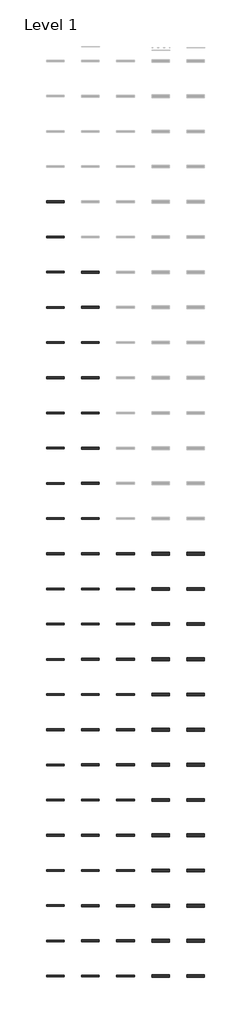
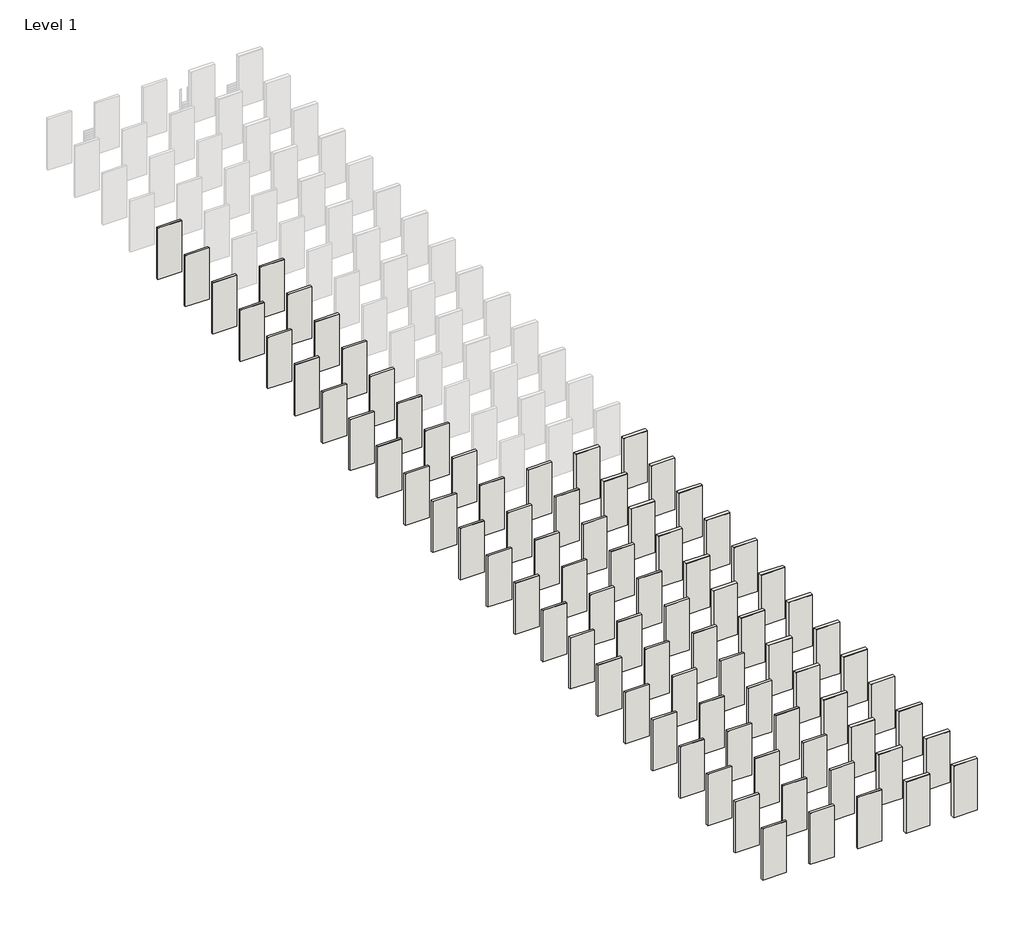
# One storey, part 1 of 2: 83 walls.
"""IFC4 building model written with IfcOpenShell, lengths in millimetres."""

from ifc_helpers import new_model, si_unit, frame, origin, place, context, project, spatial, polyline, outline, extrude, element, save

model = new_model("IFC4")

# Units and contexts
model_context = context("Model", 3, world=origin())
ifc_project = project(units=[si_unit("LENGTHUNIT", "METRE", prefix="MILLI")], contexts=[model_context])

# Site, building, storey
site = spatial("IfcSite", under=ifc_project)
building = spatial("IfcBuilding", under=site)
storey = spatial("IfcBuildingStorey", under=building, Name="Level 1", Elevation=0.0)

# Walls
placement = place(None, origin())
element("IfcWall", 1, ObjectType="Exterior - 2x4 Direct to Stud - LP SmartSide Lap Siding - 76 Series Cedar Texture Lap (Strand) - 5.84", at=placement, inside=storey, context=model_context, shape_type="SweptSolid", body=[
    extrude(outline(polyline([(22554.7791435, 0.0), (22554.7791435, 2771.775), (22564.3041435, 2771.775), (22665.9041435, 2771.775), (22665.9041435, 0.0), (22564.3041435, 0.0), (22554.7791435, 0.0)])), frame((-5100.4179718, 0.0, 0.0), z_axis=(1.0, 0.0, 0.0), x_axis=(0.0, 1.0, 0.0)), (0.0, 0.0, 1.0), 1219.2),
])
element("IfcWall", 2, ObjectType="Exterior - 2x4 Direct to Stud - LP SmartSide Lap Siding - 76 Series Cedar Texture Lap (Strand) - 7.84", at=placement, inside=storey, context=model_context, shape_type="SweptSolid", body=[
    extrude(outline(polyline([(20116.3791435, 0.0), (20116.3791435, 2771.775), (20125.9041435, 2771.775), (20227.5041435, 2771.775), (20227.5041435, 0.0), (20125.9041435, 0.0), (20116.3791435, 0.0)])), frame((-5100.4179718, 0.0, 0.0), z_axis=(1.0, 0.0, 0.0), x_axis=(0.0, 1.0, 0.0)), (0.0, 0.0, 1.0), 1219.2),
])
element("IfcWall", 3, ObjectType="Exterior - 2x4 Direct to Stud - LP SmartSide Lap Siding - 76 Series Cedar Texture Lap (Strand) - 11.84", at=placement, inside=storey, context=model_context, shape_type="SweptSolid", body=[
    extrude(outline(polyline([(17677.9791435, 0.0), (17677.9791435, 2771.775), (17687.5041435, 2771.775), (17789.1041435, 2771.775), (17789.1041435, 0.0), (17687.5041435, 0.0), (17677.9791435, 0.0)])), frame((-5100.4179718, 0.0, 0.0), z_axis=(1.0, 0.0, 0.0), x_axis=(0.0, 1.0, 0.0)), (0.0, 0.0, 1.0), 1219.2),
])
element("IfcWall", 4, ObjectType="Exterior - 2x4 Direct to Stud - LP SmartSide Lap Siding - 76 Series Cedar Texture Lap (Fiber) - 5.84", at=placement, inside=storey, context=model_context, shape_type="SweptSolid", body=[
    extrude(outline(polyline([(15239.5791435, 0.0), (15239.5791435, 2771.775), (15249.1041435, 2771.775), (15350.7041435, 2771.775), (15350.7041435, 0.0), (15249.1041435, 0.0), (15239.5791435, 0.0)])), frame((-5100.4179718, 0.0, 0.0), z_axis=(1.0, 0.0, 0.0), x_axis=(0.0, 1.0, 0.0)), (0.0, 0.0, 1.0), 1219.2),
])
element("IfcWall", 5, ObjectType="Exterior - 2x4 Direct to Stud - LP SmartSide Lap Siding - 76 Series Cedar Texture Lap (Fiber) - 7.84", at=placement, inside=storey, context=model_context, shape_type="SweptSolid", body=[
    extrude(outline(polyline([(12801.1791435, 0.0), (12801.1791435, 2771.775), (12810.7041435, 2771.775), (12912.3041435, 2771.775), (12912.3041435, 0.0), (12810.7041435, 0.0), (12801.1791435, 0.0)])), frame((-5100.4179718, 0.0, 0.0), z_axis=(1.0, 0.0, 0.0), x_axis=(0.0, 1.0, 0.0)), (0.0, 0.0, 1.0), 1219.2),
])
element("IfcWall", 6, ObjectType="Exterior - 2x4 Direct to Stud - LP SmartSide Lap Siding - 76 Series Cedar Texture Lap (Fiber) - 9.47", at=placement, inside=storey, context=model_context, shape_type="SweptSolid", body=[
    extrude(outline(polyline([(10362.7791435, 0.0), (10362.7791435, 2771.775), (10372.3041435, 2771.775), (10473.9041435, 2771.775), (10473.9041435, 0.0), (10372.3041435, 0.0), (10362.7791435, 0.0)])), frame((-5100.4179718, 0.0, 0.0), z_axis=(1.0, 0.0, 0.0), x_axis=(0.0, 1.0, 0.0)), (0.0, 0.0, 1.0), 1219.2),
])
element("IfcWall", 7, ObjectType="Exterior - 2x4 Direct to Stud - LP SmartSide Lap Siding - 76 Series Cedar Texture Lap (Fiber) - 11.84", at=placement, inside=storey, context=model_context, shape_type="SweptSolid", body=[
    extrude(outline(polyline([(7924.3791435, 0.0), (7924.3791435, 2771.775), (7933.9041435, 2771.775), (8035.5041435, 2771.775), (8035.5041435, 0.0), (7933.9041435, 0.0), (7924.3791435, 0.0)])), frame((-5100.4179718, 0.0, 0.0), z_axis=(1.0, 0.0, 0.0), x_axis=(0.0, 1.0, 0.0)), (0.0, 0.0, 1.0), 1219.2),
])
element("IfcWall", 8, ObjectType="Exterior - 2x4 Direct to Stud - LP SmartSide Lap Siding - 76 Series SmartLock Cedar Texture Lap (Strand) - 7.84", at=placement, inside=storey, context=model_context, shape_type="SweptSolid", body=[
    extrude(outline(polyline([(5485.9791435, 0.0), (5485.9791435, 2771.775), (5495.5041435, 2771.775), (5597.1041435, 2771.775), (5597.1041435, 0.0), (5495.5041435, 0.0), (5485.9791435, 0.0)])), frame((-5100.4179718, 0.0, 0.0), z_axis=(1.0, 0.0, 0.0), x_axis=(0.0, 1.0, 0.0)), (0.0, 0.0, 1.0), 1219.2),
])
element("IfcWall", 9, ObjectType="Exterior - 2x4 Direct to Stud - LP SmartSide Lap Siding - 120 Series Self-Aligning Cedar Texture Lap (Fiber) - 7.92", at=placement, inside=storey, context=model_context, shape_type="SweptSolid", body=[
    extrude(outline(polyline([(3046.6266435, 0.0), (3046.6266435, 2771.775), (3058.0566435, 2771.775), (3159.6566435, 2771.775), (3159.6566435, 0.0), (3058.0566435, 0.0), (3046.6266435, 0.0)])), frame((-5100.4179718, 0.0, 0.0), z_axis=(1.0, 0.0, 0.0), x_axis=(0.0, 1.0, 0.0)), (0.0, 0.0, 1.0), 1219.2),
])
element("IfcWall", 10, ObjectType="Exterior - 2x4 Direct to Stud - LP SmartSide Lap Siding - 38 Series Smooth Finish Lap (Strand) - 5.84", at=placement, inside=storey, context=model_context, shape_type="SweptSolid", body=[
    extrude(outline(polyline([(609.9411435, 0.0), (609.9411435, 2771.775), (617.9421435, 2771.775), (719.5421435, 2771.775), (719.5421435, 0.0), (617.9421435, 0.0), (609.9411435, 0.0)])), frame((-5100.4179718, 0.0, 0.0), z_axis=(1.0, 0.0, 0.0), x_axis=(0.0, 1.0, 0.0)), (0.0, 0.0, 1.0), 1219.2),
])
element("IfcWall", 11, ObjectType="Exterior - 2x4 Direct to Stud - LP SmartSide Lap Siding - 38 Series Smooth Finish Lap (Strand) - 7.84", at=placement, inside=storey, context=model_context, shape_type="SweptSolid", body=[
    extrude(outline(polyline([(-1828.4588565, 0.0), (-1828.4588565, 2771.775), (-1820.4578565, 2771.775), (-1718.8578565, 2771.775), (-1718.8578565, 0.0), (-1820.4578565, 0.0), (-1828.4588565, 0.0)])), frame((-5100.4179718, 0.0, 0.0), z_axis=(1.0, 0.0, 0.0), x_axis=(0.0, 1.0, 0.0)), (0.0, 0.0, 1.0), 1219.2),
])
element("IfcWall", 12, ObjectType="Exterior - 2x4 Direct to Stud - LP SmartSide Lap Siding - 38 Series Smooth Finish Lap (Strand) - 11.84", at=placement, inside=storey, context=model_context, shape_type="SweptSolid", body=[
    extrude(outline(polyline([(-4266.8588565, 0.0), (-4266.8588565, 2771.775), (-4258.8578565, 2771.775), (-4157.2578565, 2771.775), (-4157.2578565, 0.0), (-4258.8578565, 0.0), (-4266.8588565, 0.0)])), frame((-5100.4179718, 0.0, 0.0), z_axis=(1.0, 0.0, 0.0), x_axis=(0.0, 1.0, 0.0)), (0.0, 0.0, 1.0), 1219.2),
])
element("IfcWall", 13, ObjectType="Exterior - 2x4 Direct to Stud - LP SmartSide Lap Siding - Colonial Beaded Sequoia Texture Lap (Fiber) - 7.94", at=placement, inside=storey, context=model_context, shape_type="SweptSolid", body=[
    extrude(outline(polyline([(-6706.0208565, 0.0), (-6706.0208565, 2771.775), (-6696.4958565, 2771.775), (-6594.8958565, 2771.775), (-6594.8958565, 0.0), (-6696.4958565, 0.0), (-6706.0208565, 0.0)])), frame((-5100.4179718, 0.0, 0.0), z_axis=(1.0, 0.0, 0.0), x_axis=(0.0, 1.0, 0.0)), (0.0, 0.0, 1.0), 1219.2),
])
element("IfcWall", 14, ObjectType="Exterior - 2x4 Direct to Stud - LP SmartSide Lap Siding - Colonial Beaded Smooth Finish Lap (Fiber) - 7.94", at=placement, inside=storey, context=model_context, shape_type="SweptSolid", body=[
    extrude(outline(polyline([(-9144.4208565, 0.0), (-9144.4208565, 2771.775), (-9134.8958565, 2771.775), (-9033.2958565, 2771.775), (-9033.2958565, 0.0), (-9134.8958565, 0.0), (-9144.4208565, 0.0)])), frame((-5100.4179718, 0.0, 0.0), z_axis=(1.0, 0.0, 0.0), x_axis=(0.0, 1.0, 0.0)), (0.0, 0.0, 1.0), 1219.2),
])
element("IfcWall", 15, ObjectType="Exterior - 2x4 Direct to Stud - LP SmartSide Lap Siding - Colonial Beaded Smooth Finish Lap (Fiber) - 8.94", at=placement, inside=storey, context=model_context, shape_type="SweptSolid", body=[
    extrude(outline(polyline([(-11582.8208565, 0.0), (-11582.8208565, 2771.775), (-11573.2958565, 2771.775), (-11471.6958565, 2771.775), (-11471.6958565, 0.0), (-11573.2958565, 0.0), (-11582.8208565, 0.0)])), frame((-5100.4179718, 0.0, 0.0), z_axis=(1.0, 0.0, 0.0), x_axis=(0.0, 1.0, 0.0)), (0.0, 0.0, 1.0), 1219.2),
])
element("IfcWall", 16, ObjectType="Exterior - 2x4 Direct to Stud - LP SmartSide Lap Siding - Bold Profile Triple 4\" Cedar Texture Lap (Fiber) - 11.86", at=placement, inside=storey, context=model_context, shape_type="SweptSolid", body=[
    extrude(outline(polyline([(-14022.1733565, 0.0), (-14022.1733565, 2771.775), (-14010.7433565, 2771.775), (-13909.1433565, 2771.775), (-13909.1433565, 0.0), (-14010.7433565, 0.0), (-14022.1733565, 0.0)])), frame((-5100.4179718, 0.0, 0.0), z_axis=(1.0, 0.0, 0.0), x_axis=(0.0, 1.0, 0.0)), (0.0, 0.0, 1.0), 1219.2),
])
element("IfcWall", 17, ObjectType="Exterior - 2x4 Direct to Stud - LP SmartSide Lap Siding - 76 Series Smooth Finish Lap (Fiber) - 5.84", at=placement, inside=storey, context=model_context, shape_type="SweptSolid", body=[
    extrude(outline(polyline([(-26213.2208565, 0.0), (-26213.2208565, 2771.775), (-26203.6958565, 2771.775), (-26102.0958565, 2771.775), (-26102.0958565, 0.0), (-26203.6958565, 0.0), (-26213.2208565, 0.0)])), frame((-5100.4179718, 0.0, 0.0), z_axis=(1.0, 0.0, 0.0), x_axis=(0.0, 1.0, 0.0)), (0.0, 0.0, 1.0), 1219.2),
])
element("IfcWall", 18, ObjectType="Exterior - 2x4 Direct to Stud - LP SmartSide Lap Siding - 76 Series Smooth Finish Lap (Fiber) - 7.84", at=placement, inside=storey, context=model_context, shape_type="SweptSolid", body=[
    extrude(outline(polyline([(-28651.6208565, 0.0), (-28651.6208565, 2771.775), (-28642.0958565, 2771.775), (-28540.4958565, 2771.775), (-28540.4958565, 0.0), (-28642.0958565, 0.0), (-28651.6208565, 0.0)])), frame((-5100.4179718, 0.0, 0.0), z_axis=(1.0, 0.0, 0.0), x_axis=(0.0, 1.0, 0.0)), (0.0, 0.0, 1.0), 1219.2),
])
element("IfcWall", 19, ObjectType="Exterior - 2x4 Direct to Stud - LP SmartSide Lap Siding - 76 Series Smooth Finish Lap (Fiber) - 11.84", at=placement, inside=storey, context=model_context, shape_type="SweptSolid", body=[
    extrude(outline(polyline([(-31090.0208565, 0.0), (-31090.0208565, 2771.775), (-31080.4958565, 2771.775), (-30978.8958565, 2771.775), (-30978.8958565, 0.0), (-31080.4958565, 0.0), (-31090.0208565, 0.0)])), frame((-5100.4179718, 0.0, 0.0), z_axis=(1.0, 0.0, 0.0), x_axis=(0.0, 1.0, 0.0)), (0.0, 0.0, 1.0), 1219.2),
])
element("IfcWall", 20, ObjectType="Exterior - 2x4 Direct to Stud - LP SmartSide Lap Siding - Bold Profile Double 5\" Cedar Texture Lap (Fiber) - 11.86", at=placement, inside=storey, context=model_context, shape_type="SweptSolid", body=[
    extrude(outline(polyline([(-16460.5733565, 0.0), (-16460.5733565, 2771.775), (-16449.1433565, 2771.775), (-16347.5433565, 2771.775), (-16347.5433565, 0.0), (-16449.1433565, 0.0), (-16460.5733565, 0.0)])), frame((-5100.4179718, 0.0, 0.0), z_axis=(1.0, 0.0, 0.0), x_axis=(0.0, 1.0, 0.0)), (0.0, 0.0, 1.0), 1219.2),
])
element("IfcWall", 21, ObjectType="Exterior - 2x4 Direct to Stud - LP SmartSide Lap Siding - Bold Profile Quad 4\" Cedar Texture Lap (Fiber) - 15.94", at=placement, inside=storey, context=model_context, shape_type="SweptSolid", body=[
    extrude(outline(polyline([(-18898.9733565, 0.0), (-18898.9733565, 2771.775), (-18887.5433565, 2771.775), (-18785.9433565, 2771.775), (-18785.9433565, 0.0), (-18887.5433565, 0.0), (-18898.9733565, 0.0)])), frame((-5100.4179718, 0.0, 0.0), z_axis=(1.0, 0.0, 0.0), x_axis=(0.0, 1.0, 0.0)), (0.0, 0.0, 1.0), 1219.2),
])
element("IfcWall", 22, ObjectType="Exterior - 2x4 Direct to Stud - LP SmartSide Lap Siding - Bold Profile Triple 5\" Cedar Texture Lap (Fiber) - 15.94", at=placement, inside=storey, context=model_context, shape_type="SweptSolid", body=[
    extrude(outline(polyline([(-21337.3733565, 0.0), (-21337.3733565, 2771.775), (-21325.9433565, 2771.775), (-21224.3433565, 2771.775), (-21224.3433565, 0.0), (-21325.9433565, 0.0), (-21337.3733565, 0.0)])), frame((-5100.4179718, 0.0, 0.0), z_axis=(1.0, 0.0, 0.0), x_axis=(0.0, 1.0, 0.0)), (0.0, 0.0, 1.0), 1219.2),
])
element("IfcWall", 23, ObjectType="Exterior - 2x4 Direct to Stud - LP SmartSide Lap Siding - Bold Profile Double 8\" Cedar Texture Lap (Fiber) - 15.94", at=placement, inside=storey, context=model_context, shape_type="SweptSolid", body=[
    extrude(outline(polyline([(-23775.7733565, 0.0), (-23775.7733565, 2771.775), (-23764.3433565, 2771.775), (-23662.7433565, 2771.775), (-23662.7433565, 0.0), (-23764.3433565, 0.0), (-23775.7733565, 0.0)])), frame((-5100.4179718, 0.0, 0.0), z_axis=(1.0, 0.0, 0.0), x_axis=(0.0, 1.0, 0.0)), (0.0, 0.0, 1.0), 1219.2),
])
element("IfcWall", 24, ObjectType="Exterior - 2x4 w/WSP - LP SmartSide Lap Siding - 76 Series Cedar Texture Lap (Strand) - 11.84", at=placement, inside=storey, context=model_context, shape_type="SweptSolid", body=[
    extrude(outline(polyline([(17672.4228935, 0.0), (17672.4228935, 2771.775), (17681.9478935, 2771.775), (17794.6603935, 2771.775), (17794.6603935, 0.0), (17681.9478935, 0.0), (17672.4228935, 0.0)])), frame((-2662.0179718, 0.0, 0.0), z_axis=(1.0, 0.0, 0.0), x_axis=(0.0, 1.0, 0.0)), (0.0, 0.0, 1.0), 1219.2),
])
element("IfcWall", 25, ObjectType="Exterior - 2x4 w/WSP - LP SmartSide Lap Siding - 76 Series Cedar Texture Lap (Fiber) - 5.84", at=placement, inside=storey, context=model_context, shape_type="SweptSolid", body=[
    extrude(outline(polyline([(15234.0228935, 0.0), (15234.0228935, 2771.775), (15243.5478935, 2771.775), (15356.2603935, 2771.775), (15356.2603935, 0.0), (15243.5478935, 0.0), (15234.0228935, 0.0)])), frame((-2662.0179718, 0.0, 0.0), z_axis=(1.0, 0.0, 0.0), x_axis=(0.0, 1.0, 0.0)), (0.0, 0.0, 1.0), 1219.2),
])
element("IfcWall", 26, ObjectType="Exterior - 2x4 w/WSP - LP SmartSide Lap Siding - 76 Series Cedar Texture Lap (Fiber) - 7.84", at=placement, inside=storey, context=model_context, shape_type="SweptSolid", body=[
    extrude(outline(polyline([(12795.6228935, 0.0), (12795.6228935, 2771.775), (12805.1478935, 2771.775), (12917.8603935, 2771.775), (12917.8603935, 0.0), (12805.1478935, 0.0), (12795.6228935, 0.0)])), frame((-2662.0179718, 0.0, 0.0), z_axis=(1.0, 0.0, 0.0), x_axis=(0.0, 1.0, 0.0)), (0.0, 0.0, 1.0), 1219.2),
])
element("IfcWall", 27, ObjectType="Exterior - 2x4 w/WSP - LP SmartSide Lap Siding - 76 Series Cedar Texture Lap (Fiber) - 9.47", at=placement, inside=storey, context=model_context, shape_type="SweptSolid", body=[
    extrude(outline(polyline([(10357.2228935, 0.0), (10357.2228935, 2771.775), (10366.7478935, 2771.775), (10479.4603935, 2771.775), (10479.4603935, 0.0), (10366.7478935, 0.0), (10357.2228935, 0.0)])), frame((-2662.0179718, 0.0, 0.0), z_axis=(1.0, 0.0, 0.0), x_axis=(0.0, 1.0, 0.0)), (0.0, 0.0, 1.0), 1219.2),
])
element("IfcWall", 28, ObjectType="Exterior - 2x4 w/WSP - LP SmartSide Lap Siding - 76 Series Cedar Texture Lap (Fiber) - 11.84", at=placement, inside=storey, context=model_context, shape_type="SweptSolid", body=[
    extrude(outline(polyline([(7918.8228935, 0.0), (7918.8228935, 2771.775), (7928.3478935, 2771.775), (8041.0603935, 2771.775), (8041.0603935, 0.0), (7928.3478935, 0.0), (7918.8228935, 0.0)])), frame((-2662.0179718, 0.0, 0.0), z_axis=(1.0, 0.0, 0.0), x_axis=(0.0, 1.0, 0.0)), (0.0, 0.0, 1.0), 1219.2),
])
element("IfcWall", 29, ObjectType="Exterior - 2x4 w/WSP - LP SmartSide Lap Siding - 76 Series SmartLock Cedar Texture Lap (Strand) - 7.84", at=placement, inside=storey, context=model_context, shape_type="SweptSolid", body=[
    extrude(outline(polyline([(5480.4228935, 0.0), (5480.4228935, 2771.775), (5489.9478935, 2771.775), (5602.6603935, 2771.775), (5602.6603935, 0.0), (5489.9478935, 0.0), (5480.4228935, 0.0)])), frame((-2662.0179718, 0.0, 0.0), z_axis=(1.0, 0.0, 0.0), x_axis=(0.0, 1.0, 0.0)), (0.0, 0.0, 1.0), 1219.2),
])
element("IfcWall", 30, ObjectType="Exterior - 2x4 w/WSP - LP SmartSide Lap Siding - 120 Series Self-Aligning Cedar Texture Lap (Fiber) - 7.92", at=placement, inside=storey, context=model_context, shape_type="SweptSolid", body=[
    extrude(outline(polyline([(3041.0703935, 0.0), (3041.0703935, 2771.775), (3052.5003935, 2771.775), (3165.2128935, 2771.775), (3165.2128935, 0.0), (3052.5003935, 0.0), (3041.0703935, 0.0)])), frame((-2662.0179718, 0.0, 0.0), z_axis=(1.0, 0.0, 0.0), x_axis=(0.0, 1.0, 0.0)), (0.0, 0.0, 1.0), 1219.2),
])
element("IfcWall", 31, ObjectType="Exterior - 2x4 w/WSP - LP SmartSide Lap Siding - 38 Series Smooth Finish Lap (Strand) - 5.84", at=placement, inside=storey, context=model_context, shape_type="SweptSolid", body=[
    extrude(outline(polyline([(604.3848935, 0.0), (604.3848935, 2771.775), (612.3858935, 2771.775), (725.0983935, 2771.775), (725.0983935, 0.0), (612.3858935, 0.0), (604.3848935, 0.0)])), frame((-2662.0179718, 0.0, 0.0), z_axis=(1.0, 0.0, 0.0), x_axis=(0.0, 1.0, 0.0)), (0.0, 0.0, 1.0), 1219.2),
])
element("IfcWall", 32, ObjectType="Exterior - 2x4 w/WSP - LP SmartSide Lap Siding - 38 Series Smooth Finish Lap (Strand) - 7.84", at=placement, inside=storey, context=model_context, shape_type="SweptSolid", body=[
    extrude(outline(polyline([(-1834.0151065, 0.0), (-1834.0151065, 2771.775), (-1826.0141065, 2771.775), (-1713.3016065, 2771.775), (-1713.3016065, 0.0), (-1826.0141065, 0.0), (-1834.0151065, 0.0)])), frame((-2662.0179718, 0.0, 0.0), z_axis=(1.0, 0.0, 0.0), x_axis=(0.0, 1.0, 0.0)), (0.0, 0.0, 1.0), 1219.2),
])
element("IfcWall", 33, ObjectType="Exterior - 2x4 w/WSP - LP SmartSide Lap Siding - 38 Series Smooth Finish Lap (Strand) - 11.84", at=placement, inside=storey, context=model_context, shape_type="SweptSolid", body=[
    extrude(outline(polyline([(-4272.4151065, 0.0), (-4272.4151065, 2771.775), (-4264.4141065, 2771.775), (-4151.7016065, 2771.775), (-4151.7016065, 0.0), (-4264.4141065, 0.0), (-4272.4151065, 0.0)])), frame((-2662.0179718, 0.0, 0.0), z_axis=(1.0, 0.0, 0.0), x_axis=(0.0, 1.0, 0.0)), (0.0, 0.0, 1.0), 1219.2),
])
element("IfcWall", 34, ObjectType="Exterior - 2x4 w/WSP - LP SmartSide Lap Siding - Colonial Beaded Sequoia Texture Lap (Fiber) - 7.94", at=placement, inside=storey, context=model_context, shape_type="SweptSolid", body=[
    extrude(outline(polyline([(-6711.5771065, 0.0), (-6711.5771065, 2771.775), (-6702.0521065, 2771.775), (-6589.3396065, 2771.775), (-6589.3396065, 0.0), (-6702.0521065, 0.0), (-6711.5771065, 0.0)])), frame((-2662.0179718, 0.0, 0.0), z_axis=(1.0, 0.0, 0.0), x_axis=(0.0, 1.0, 0.0)), (0.0, 0.0, 1.0), 1219.2),
])
element("IfcWall", 35, ObjectType="Exterior - 2x4 w/WSP - LP SmartSide Lap Siding - Colonial Beaded Smooth Finish Lap (Fiber) - 7.94", at=placement, inside=storey, context=model_context, shape_type="SweptSolid", body=[
    extrude(outline(polyline([(-9149.9771065, 0.0), (-9149.9771065, 2771.775), (-9140.4521065, 2771.775), (-9027.7396065, 2771.775), (-9027.7396065, 0.0), (-9140.4521065, 0.0), (-9149.9771065, 0.0)])), frame((-2662.0179718, 0.0, 0.0), z_axis=(1.0, 0.0, 0.0), x_axis=(0.0, 1.0, 0.0)), (0.0, 0.0, 1.0), 1219.2),
])
element("IfcWall", 36, ObjectType="Exterior - 2x4 w/WSP - LP SmartSide Lap Siding - Colonial Beaded Smooth Finish Lap (Fiber) - 8.94", at=placement, inside=storey, context=model_context, shape_type="SweptSolid", body=[
    extrude(outline(polyline([(-11588.3771065, 0.0), (-11588.3771065, 2771.775), (-11578.8521065, 2771.775), (-11466.1396065, 2771.775), (-11466.1396065, 0.0), (-11578.8521065, 0.0), (-11588.3771065, 0.0)])), frame((-2662.0179718, 0.0, 0.0), z_axis=(1.0, 0.0, 0.0), x_axis=(0.0, 1.0, 0.0)), (0.0, 0.0, 1.0), 1219.2),
])
element("IfcWall", 37, ObjectType="Exterior - 2x4 w/WSP - LP SmartSide Lap Siding - Bold Profile Triple 4\" Cedar Texture Lap (Fiber) - 11.86", at=placement, inside=storey, context=model_context, shape_type="SweptSolid", body=[
    extrude(outline(polyline([(-14027.7296065, 0.0), (-14027.7296065, 2771.775), (-14016.2996065, 2771.775), (-13903.5871065, 2771.775), (-13903.5871065, 0.0), (-14016.2996065, 0.0), (-14027.7296065, 0.0)])), frame((-2662.0179718, 0.0, 0.0), z_axis=(1.0, 0.0, 0.0), x_axis=(0.0, 1.0, 0.0)), (0.0, 0.0, 1.0), 1219.2),
])
element("IfcWall", 38, ObjectType="Exterior - 2x4 w/WSP - LP SmartSide Lap Siding - 76 Series Smooth Finish Lap (Fiber) - 5.84", at=placement, inside=storey, context=model_context, shape_type="SweptSolid", body=[
    extrude(outline(polyline([(-26218.7771065, 0.0), (-26218.7771065, 2771.775), (-26209.2521065, 2771.775), (-26096.5396065, 2771.775), (-26096.5396065, 0.0), (-26209.2521065, 0.0), (-26218.7771065, 0.0)])), frame((-2662.0179718, 0.0, 0.0), z_axis=(1.0, 0.0, 0.0), x_axis=(0.0, 1.0, 0.0)), (0.0, 0.0, 1.0), 1219.2),
])
element("IfcWall", 39, ObjectType="Exterior - 2x4 w/WSP - LP SmartSide Lap Siding - 76 Series Smooth Finish Lap (Fiber) - 7.84", at=placement, inside=storey, context=model_context, shape_type="SweptSolid", body=[
    extrude(outline(polyline([(-28657.1771065, 0.0), (-28657.1771065, 2771.775), (-28647.6521065, 2771.775), (-28534.9396065, 2771.775), (-28534.9396065, 0.0), (-28647.6521065, 0.0), (-28657.1771065, 0.0)])), frame((-2662.0179718, 0.0, 0.0), z_axis=(1.0, 0.0, 0.0), x_axis=(0.0, 1.0, 0.0)), (0.0, 0.0, 1.0), 1219.2),
])
element("IfcWall", 40, ObjectType="Exterior - 2x4 w/WSP - LP SmartSide Lap Siding - 76 Series Smooth Finish Lap (Fiber) - 11.84", at=placement, inside=storey, context=model_context, shape_type="SweptSolid", body=[
    extrude(outline(polyline([(-31095.5771065, 0.0), (-31095.5771065, 2771.775), (-31086.0521065, 2771.775), (-30973.3396065, 2771.775), (-30973.3396065, 0.0), (-31086.0521065, 0.0), (-31095.5771065, 0.0)])), frame((-2662.0179718, 0.0, 0.0), z_axis=(1.0, 0.0, 0.0), x_axis=(0.0, 1.0, 0.0)), (0.0, 0.0, 1.0), 1219.2),
])
element("IfcWall", 41, ObjectType="Exterior - 2x4 w/WSP - LP SmartSide Lap Siding - Bold Profile Double 5\" Cedar Texture Lap (Fiber) - 11.86", at=placement, inside=storey, context=model_context, shape_type="SweptSolid", body=[
    extrude(outline(polyline([(-16466.1296065, 0.0), (-16466.1296065, 2771.775), (-16454.6996065, 2771.775), (-16341.9871065, 2771.775), (-16341.9871065, 0.0), (-16454.6996065, 0.0), (-16466.1296065, 0.0)])), frame((-2662.0179718, 0.0, 0.0), z_axis=(1.0, 0.0, 0.0), x_axis=(0.0, 1.0, 0.0)), (0.0, 0.0, 1.0), 1219.2),
])
element("IfcWall", 42, ObjectType="Exterior - 2x4 w/WSP - LP SmartSide Lap Siding - Bold Profile Quad 4\" Cedar Texture Lap (Fiber) - 15.94", at=placement, inside=storey, context=model_context, shape_type="SweptSolid", body=[
    extrude(outline(polyline([(-18904.5296065, 0.0), (-18904.5296065, 2771.775), (-18893.0996065, 2771.775), (-18780.3871065, 2771.775), (-18780.3871065, 0.0), (-18893.0996065, 0.0), (-18904.5296065, 0.0)])), frame((-2662.0179718, 0.0, 0.0), z_axis=(1.0, 0.0, 0.0), x_axis=(0.0, 1.0, 0.0)), (0.0, 0.0, 1.0), 1219.2),
])
element("IfcWall", 43, ObjectType="Exterior - 2x4 w/WSP - LP SmartSide Lap Siding - Bold Profile Triple 5\" Cedar Texture Lap (Fiber) - 15.94", at=placement, inside=storey, context=model_context, shape_type="SweptSolid", body=[
    extrude(outline(polyline([(-21342.9296065, 0.0), (-21342.9296065, 2771.775), (-21331.4996065, 2771.775), (-21218.7871065, 2771.775), (-21218.7871065, 0.0), (-21331.4996065, 0.0), (-21342.9296065, 0.0)])), frame((-2662.0179718, 0.0, 0.0), z_axis=(1.0, 0.0, 0.0), x_axis=(0.0, 1.0, 0.0)), (0.0, 0.0, 1.0), 1219.2),
])
element("IfcWall", 44, ObjectType="Exterior - 2x4 w/WSP - LP SmartSide Lap Siding - Bold Profile Double 8\" Cedar Texture Lap (Fiber) - 15.94", at=placement, inside=storey, context=model_context, shape_type="SweptSolid", body=[
    extrude(outline(polyline([(-23781.3296065, 0.0), (-23781.3296065, 2771.775), (-23769.8996065, 2771.775), (-23657.1871065, 2771.775), (-23657.1871065, 0.0), (-23769.8996065, 0.0), (-23781.3296065, 0.0)])), frame((-2662.0179718, 0.0, 0.0), z_axis=(1.0, 0.0, 0.0), x_axis=(0.0, 1.0, 0.0)), (0.0, 0.0, 1.0), 1219.2),
])
element("IfcWall", 45, ObjectType="Exterior - 2x4 w/Exterior Insulation - LP SmartSide Lap Siding - 38 Series Smooth Finish Lap (Strand) - 7.84", at=placement, inside=storey, context=model_context, shape_type="SweptSolid", body=[
    extrude(outline(polyline([(-1868.9401065, 0.0), (-1868.9401065, 2771.775), (-1860.9391065, 2771.775), (-1841.8891065, 2771.775), (-1678.3766065, 2771.775), (-1678.3766065, 0.0), (-1841.8891065, 0.0), (-1860.9391065, 0.0), (-1868.9401065, 0.0)])), frame((2214.7820282, 0.0, 0.0), z_axis=(1.0, 0.0, 0.0), x_axis=(0.0, 1.0, 0.0)), (0.0, 0.0, 1.0), 1219.2),
])
element("IfcWall", 46, ObjectType="Exterior - 2x4 w/Exterior Insulation - LP SmartSide Lap Siding - 38 Series Smooth Finish Lap (Strand) - 11.84", at=placement, inside=storey, context=model_context, shape_type="SweptSolid", body=[
    extrude(outline(polyline([(-4307.3401065, 0.0), (-4307.3401065, 2771.775), (-4299.3391065, 2771.775), (-4280.2891065, 2771.775), (-4116.7766065, 2771.775), (-4116.7766065, 0.0), (-4280.2891065, 0.0), (-4299.3391065, 0.0), (-4307.3401065, 0.0)])), frame((2214.7820282, 0.0, 0.0), z_axis=(1.0, 0.0, 0.0), x_axis=(0.0, 1.0, 0.0)), (0.0, 0.0, 1.0), 1219.2),
])
element("IfcWall", 47, ObjectType="Exterior - 2x4 w/Exterior Insulation - LP SmartSide Lap Siding - Colonial Beaded Sequoia Texture Lap (Fiber) - 7.94", at=placement, inside=storey, context=model_context, shape_type="SweptSolid", body=[
    extrude(outline(polyline([(-6746.5021065, 0.0), (-6746.5021065, 2771.775), (-6736.9771065, 2771.775), (-6717.9271065, 2771.775), (-6554.4146065, 2771.775), (-6554.4146065, 0.0), (-6717.9271065, 0.0), (-6736.9771065, 0.0), (-6746.5021065, 0.0)])), frame((2214.7820282, 0.0, 0.0), z_axis=(1.0, 0.0, 0.0), x_axis=(0.0, 1.0, 0.0)), (0.0, 0.0, 1.0), 1219.2),
])
element("IfcWall", 48, ObjectType="Exterior - 2x4 w/Exterior Insulation - LP SmartSide Lap Siding - Colonial Beaded Smooth Finish Lap (Fiber) - 7.94", at=placement, inside=storey, context=model_context, shape_type="SweptSolid", body=[
    extrude(outline(polyline([(-9184.9021065, 0.0), (-9184.9021065, 2771.775), (-9175.3771065, 2771.775), (-9156.3271065, 2771.775), (-8992.8146065, 2771.775), (-8992.8146065, 0.0), (-9156.3271065, 0.0), (-9175.3771065, 0.0), (-9184.9021065, 0.0)])), frame((2214.7820282, 0.0, 0.0), z_axis=(1.0, 0.0, 0.0), x_axis=(0.0, 1.0, 0.0)), (0.0, 0.0, 1.0), 1219.2),
])
element("IfcWall", 49, ObjectType="Exterior - 2x4 w/Exterior Insulation - LP SmartSide Lap Siding - Colonial Beaded Smooth Finish Lap (Fiber) - 8.94", at=placement, inside=storey, context=model_context, shape_type="SweptSolid", body=[
    extrude(outline(polyline([(-11623.3021065, 0.0), (-11623.3021065, 2771.775), (-11613.7771065, 2771.775), (-11594.7271065, 2771.775), (-11431.2146065, 2771.775), (-11431.2146065, 0.0), (-11594.7271065, 0.0), (-11613.7771065, 0.0), (-11623.3021065, 0.0)])), frame((2214.7820282, 0.0, 0.0), z_axis=(1.0, 0.0, 0.0), x_axis=(0.0, 1.0, 0.0)), (0.0, 0.0, 1.0), 1219.2),
])
element("IfcWall", 50, ObjectType="Exterior - 2x4 w/Exterior Insulation - LP SmartSide Lap Siding - Bold Profile Triple 4\" Cedar Texture Lap (Fiber) - 11.86", at=placement, inside=storey, context=model_context, shape_type="SweptSolid", body=[
    extrude(outline(polyline([(-14062.6546065, 0.0), (-14062.6546065, 2771.775), (-14051.2246065, 2771.775), (-14032.1746065, 2771.775), (-13868.6621065, 2771.775), (-13868.6621065, 0.0), (-14032.1746065, 0.0), (-14051.2246065, 0.0), (-14062.6546065, 0.0)])), frame((2214.7820282, 0.0, 0.0), z_axis=(1.0, 0.0, 0.0), x_axis=(0.0, 1.0, 0.0)), (0.0, 0.0, 1.0), 1219.2),
])
element("IfcWall", 51, ObjectType="Exterior - 2x4 w/Exterior Insulation - LP SmartSide Lap Siding - 76 Series Smooth Finish Lap (Fiber) - 5.84", at=placement, inside=storey, context=model_context, shape_type="SweptSolid", body=[
    extrude(outline(polyline([(-26253.7021065, 0.0), (-26253.7021065, 2771.775), (-26244.1771065, 2771.775), (-26225.1271065, 2771.775), (-26061.6146065, 2771.775), (-26061.6146065, 0.0), (-26225.1271065, 0.0), (-26244.1771065, 0.0), (-26253.7021065, 0.0)])), frame((2214.7820282, 0.0, 0.0), z_axis=(1.0, 0.0, 0.0), x_axis=(0.0, 1.0, 0.0)), (0.0, 0.0, 1.0), 1219.2),
])
element("IfcWall", 52, ObjectType="Exterior - 2x4 w/Exterior Insulation - LP SmartSide Lap Siding - 76 Series Smooth Finish Lap (Fiber) - 7.84", at=placement, inside=storey, context=model_context, shape_type="SweptSolid", body=[
    extrude(outline(polyline([(-28692.1021065, 0.0), (-28692.1021065, 2771.775), (-28682.5771065, 2771.775), (-28663.5271065, 2771.775), (-28500.0146065, 2771.775), (-28500.0146065, 0.0), (-28663.5271065, 0.0), (-28682.5771065, 0.0), (-28692.1021065, 0.0)])), frame((2214.7820282, 0.0, 0.0), z_axis=(1.0, 0.0, 0.0), x_axis=(0.0, 1.0, 0.0)), (0.0, 0.0, 1.0), 1219.2),
])
element("IfcWall", 53, ObjectType="Exterior - 2x4 w/Exterior Insulation - LP SmartSide Lap Siding - 76 Series Smooth Finish Lap (Fiber) - 11.84", at=placement, inside=storey, context=model_context, shape_type="SweptSolid", body=[
    extrude(outline(polyline([(-31130.5021065, 0.0), (-31130.5021065, 2771.775), (-31120.9771065, 2771.775), (-31101.9271065, 2771.775), (-30938.4146065, 2771.775), (-30938.4146065, 0.0), (-31101.9271065, 0.0), (-31120.9771065, 0.0), (-31130.5021065, 0.0)])), frame((2214.7820282, 0.0, 0.0), z_axis=(1.0, 0.0, 0.0), x_axis=(0.0, 1.0, 0.0)), (0.0, 0.0, 1.0), 1219.2),
])
element("IfcWall", 54, ObjectType="Exterior - 2x4 w/Exterior Insulation - LP SmartSide Lap Siding - Bold Profile Double 5\" Cedar Texture Lap (Fiber) - 11.86", at=placement, inside=storey, context=model_context, shape_type="SweptSolid", body=[
    extrude(outline(polyline([(-16501.0546065, 0.0), (-16501.0546065, 2771.775), (-16489.6246065, 2771.775), (-16470.5746065, 2771.775), (-16307.0621065, 2771.775), (-16307.0621065, 0.0), (-16470.5746065, 0.0), (-16489.6246065, 0.0), (-16501.0546065, 0.0)])), frame((2214.7820282, 0.0, 0.0), z_axis=(1.0, 0.0, 0.0), x_axis=(0.0, 1.0, 0.0)), (0.0, 0.0, 1.0), 1219.2),
])
element("IfcWall", 55, ObjectType="Exterior - 2x4 w/Exterior Insulation - LP SmartSide Lap Siding - Bold Profile Quad 4\" Cedar Texture Lap (Fiber) - 15.94", at=placement, inside=storey, context=model_context, shape_type="SweptSolid", body=[
    extrude(outline(polyline([(-18939.4546065, 0.0), (-18939.4546065, 2771.775), (-18928.0246065, 2771.775), (-18908.9746065, 2771.775), (-18745.4621065, 2771.775), (-18745.4621065, 0.0), (-18908.9746065, 0.0), (-18928.0246065, 0.0), (-18939.4546065, 0.0)])), frame((2214.7820282, 0.0, 0.0), z_axis=(1.0, 0.0, 0.0), x_axis=(0.0, 1.0, 0.0)), (0.0, 0.0, 1.0), 1219.2),
])
element("IfcWall", 56, ObjectType="Exterior - 2x4 w/Exterior Insulation - LP SmartSide Lap Siding - Bold Profile Triple 5\" Cedar Texture Lap (Fiber) - 15.94", at=placement, inside=storey, context=model_context, shape_type="SweptSolid", body=[
    extrude(outline(polyline([(-21377.8546065, 0.0), (-21377.8546065, 2771.775), (-21366.4246065, 2771.775), (-21347.3746065, 2771.775), (-21183.8621065, 2771.775), (-21183.8621065, 0.0), (-21347.3746065, 0.0), (-21366.4246065, 0.0), (-21377.8546065, 0.0)])), frame((2214.7820282, 0.0, 0.0), z_axis=(1.0, 0.0, 0.0), x_axis=(0.0, 1.0, 0.0)), (0.0, 0.0, 1.0), 1219.2),
])
element("IfcWall", 57, ObjectType="Exterior - 2x4 w/Exterior Insulation - LP SmartSide Lap Siding - Bold Profile Double 8\" Cedar Texture Lap (Fiber) - 15.94", at=placement, inside=storey, context=model_context, shape_type="SweptSolid", body=[
    extrude(outline(polyline([(-23816.2546065, 0.0), (-23816.2546065, 2771.775), (-23804.8246065, 2771.775), (-23785.7746065, 2771.775), (-23622.2621065, 2771.775), (-23622.2621065, 0.0), (-23785.7746065, 0.0), (-23804.8246065, 0.0), (-23816.2546065, 0.0)])), frame((2214.7820282, 0.0, 0.0), z_axis=(1.0, 0.0, 0.0), x_axis=(0.0, 1.0, 0.0)), (0.0, 0.0, 1.0), 1219.2),
])
element("IfcWall", 58, ObjectType="Exterior - 2x4 w/Exterior Insulation & WeatherLogic® - LP SmartSide Lap Siding - 38 Series Smooth Finish Lap (Strand) - 7.84", at=placement, inside=storey, context=model_context, shape_type="SweptSolid", body=[
    extrude(outline(polyline([(-1868.9401065, 0.0), (-1868.9401065, 2771.775), (-1860.9391065, 2771.775), (-1841.8891065, 2771.775), (-1678.3766065, 2771.775), (-1678.3766065, 0.0), (-1841.8891065, 0.0), (-1860.9391065, 0.0), (-1868.9401065, 0.0)])), frame((4653.1820282, 0.0, 0.0), z_axis=(1.0, 0.0, 0.0), x_axis=(0.0, 1.0, 0.0)), (0.0, 0.0, 1.0), 1219.2),
])
element("IfcWall", 59, ObjectType="Exterior - 2x4 w/Exterior Insulation & WeatherLogic® - LP SmartSide Lap Siding - 38 Series Smooth Finish Lap (Strand) - 11.84", at=placement, inside=storey, context=model_context, shape_type="SweptSolid", body=[
    extrude(outline(polyline([(-4307.3401065, 0.0), (-4307.3401065, 2771.775), (-4299.3391065, 2771.775), (-4280.2891065, 2771.775), (-4116.7766065, 2771.775), (-4116.7766065, 0.0), (-4280.2891065, 0.0), (-4299.3391065, 0.0), (-4307.3401065, 0.0)])), frame((4653.1820282, 0.0, 0.0), z_axis=(1.0, 0.0, 0.0), x_axis=(0.0, 1.0, 0.0)), (0.0, 0.0, 1.0), 1219.2),
])
element("IfcWall", 60, ObjectType="Exterior - 2x4 w/Exterior Insulation & WeatherLogic® - LP SmartSide Lap Siding - Colonial Beaded Sequoia Texture Lap (Fiber) - 7.94", at=placement, inside=storey, context=model_context, shape_type="SweptSolid", body=[
    extrude(outline(polyline([(-6746.5021065, 0.0), (-6746.5021065, 2771.775), (-6736.9771065, 2771.775), (-6717.9271065, 2771.775), (-6554.4146065, 2771.775), (-6554.4146065, 0.0), (-6717.9271065, 0.0), (-6736.9771065, 0.0), (-6746.5021065, 0.0)])), frame((4653.1820282, 0.0, 0.0), z_axis=(1.0, 0.0, 0.0), x_axis=(0.0, 1.0, 0.0)), (0.0, 0.0, 1.0), 1219.2),
])
element("IfcWall", 61, ObjectType="Exterior - 2x4 w/Exterior Insulation & WeatherLogic® - LP SmartSide Lap Siding - Colonial Beaded Smooth Finish Lap (Fiber) - 7.94", at=placement, inside=storey, context=model_context, shape_type="SweptSolid", body=[
    extrude(outline(polyline([(-9184.9021065, 0.0), (-9184.9021065, 2771.775), (-9175.3771065, 2771.775), (-9156.3271065, 2771.775), (-8992.8146065, 2771.775), (-8992.8146065, 0.0), (-9156.3271065, 0.0), (-9175.3771065, 0.0), (-9184.9021065, 0.0)])), frame((4653.1820282, 0.0, 0.0), z_axis=(1.0, 0.0, 0.0), x_axis=(0.0, 1.0, 0.0)), (0.0, 0.0, 1.0), 1219.2),
])
element("IfcWall", 62, ObjectType="Exterior - 2x4 w/Exterior Insulation & WeatherLogic® - LP SmartSide Lap Siding - Colonial Beaded Smooth Finish Lap (Fiber) - 8.94", at=placement, inside=storey, context=model_context, shape_type="SweptSolid", body=[
    extrude(outline(polyline([(-11623.3021065, 0.0), (-11623.3021065, 2771.775), (-11613.7771065, 2771.775), (-11594.7271065, 2771.775), (-11431.2146065, 2771.775), (-11431.2146065, 0.0), (-11594.7271065, 0.0), (-11613.7771065, 0.0), (-11623.3021065, 0.0)])), frame((4653.1820282, 0.0, 0.0), z_axis=(1.0, 0.0, 0.0), x_axis=(0.0, 1.0, 0.0)), (0.0, 0.0, 1.0), 1219.2),
])
element("IfcWall", 63, ObjectType="Exterior - 2x4 w/Exterior Insulation & WeatherLogic® - LP SmartSide Lap Siding - Bold Profile Triple 4\" Cedar Texture Lap (Fiber) - 11.86", at=placement, inside=storey, context=model_context, shape_type="SweptSolid", body=[
    extrude(outline(polyline([(-14062.6546065, 0.0), (-14062.6546065, 2771.775), (-14051.2246065, 2771.775), (-14032.1746065, 2771.775), (-13868.6621065, 2771.775), (-13868.6621065, 0.0), (-14032.1746065, 0.0), (-14051.2246065, 0.0), (-14062.6546065, 0.0)])), frame((4653.1820282, 0.0, 0.0), z_axis=(1.0, 0.0, 0.0), x_axis=(0.0, 1.0, 0.0)), (0.0, 0.0, 1.0), 1219.2),
])
element("IfcWall", 64, ObjectType="Exterior - 2x4 w/Exterior Insulation & WeatherLogic® - LP SmartSide Lap Siding - 76 Series Smooth Finish Lap (Fiber) - 5.84", at=placement, inside=storey, context=model_context, shape_type="SweptSolid", body=[
    extrude(outline(polyline([(-26253.7021065, 0.0), (-26253.7021065, 2771.775), (-26244.1771065, 2771.775), (-26225.1271065, 2771.775), (-26061.6146065, 2771.775), (-26061.6146065, 0.0), (-26225.1271065, 0.0), (-26244.1771065, 0.0), (-26253.7021065, 0.0)])), frame((4653.1820282, 0.0, 0.0), z_axis=(1.0, 0.0, 0.0), x_axis=(0.0, 1.0, 0.0)), (0.0, 0.0, 1.0), 1219.2),
])
element("IfcWall", 65, ObjectType="Exterior - 2x4 w/Exterior Insulation & WeatherLogic® - LP SmartSide Lap Siding - 76 Series Smooth Finish Lap (Fiber) - 7.84", at=placement, inside=storey, context=model_context, shape_type="SweptSolid", body=[
    extrude(outline(polyline([(-28692.1021065, 0.0), (-28692.1021065, 2771.775), (-28682.5771065, 2771.775), (-28663.5271065, 2771.775), (-28500.0146065, 2771.775), (-28500.0146065, 0.0), (-28663.5271065, 0.0), (-28682.5771065, 0.0), (-28692.1021065, 0.0)])), frame((4653.1820282, 0.0, 0.0), z_axis=(1.0, 0.0, 0.0), x_axis=(0.0, 1.0, 0.0)), (0.0, 0.0, 1.0), 1219.2),
])
element("IfcWall", 66, ObjectType="Exterior - 2x4 w/Exterior Insulation & WeatherLogic® - LP SmartSide Lap Siding - 76 Series Smooth Finish Lap (Fiber) - 11.84", at=placement, inside=storey, context=model_context, shape_type="SweptSolid", body=[
    extrude(outline(polyline([(-31130.5021065, 0.0), (-31130.5021065, 2771.775), (-31120.9771065, 2771.775), (-31101.9271065, 2771.775), (-30938.4146065, 2771.775), (-30938.4146065, 0.0), (-31101.9271065, 0.0), (-31120.9771065, 0.0), (-31130.5021065, 0.0)])), frame((4653.1820282, 0.0, 0.0), z_axis=(1.0, 0.0, 0.0), x_axis=(0.0, 1.0, 0.0)), (0.0, 0.0, 1.0), 1219.2),
])
element("IfcWall", 67, ObjectType="Exterior - 2x4 w/Exterior Insulation & WeatherLogic® - LP SmartSide Lap Siding - Bold Profile Double 5\" Cedar Texture Lap (Fiber) - 11.86", at=placement, inside=storey, context=model_context, shape_type="SweptSolid", body=[
    extrude(outline(polyline([(-16501.0546065, 0.0), (-16501.0546065, 2771.775), (-16489.6246065, 2771.775), (-16470.5746065, 2771.775), (-16307.0621065, 2771.775), (-16307.0621065, 0.0), (-16470.5746065, 0.0), (-16489.6246065, 0.0), (-16501.0546065, 0.0)])), frame((4653.1820282, 0.0, 0.0), z_axis=(1.0, 0.0, 0.0), x_axis=(0.0, 1.0, 0.0)), (0.0, 0.0, 1.0), 1219.2),
])
element("IfcWall", 68, ObjectType="Exterior - 2x4 w/Exterior Insulation & WeatherLogic® - LP SmartSide Lap Siding - Bold Profile Quad 4\" Cedar Texture Lap (Fiber) - 15.94", at=placement, inside=storey, context=model_context, shape_type="SweptSolid", body=[
    extrude(outline(polyline([(-18939.4546065, 0.0), (-18939.4546065, 2771.775), (-18928.0246065, 2771.775), (-18908.9746065, 2771.775), (-18745.4621065, 2771.775), (-18745.4621065, 0.0), (-18908.9746065, 0.0), (-18928.0246065, 0.0), (-18939.4546065, 0.0)])), frame((4653.1820282, 0.0, 0.0), z_axis=(1.0, 0.0, 0.0), x_axis=(0.0, 1.0, 0.0)), (0.0, 0.0, 1.0), 1219.2),
])
element("IfcWall", 69, ObjectType="Exterior - 2x4 w/Exterior Insulation & WeatherLogic® - LP SmartSide Lap Siding - Bold Profile Triple 5\" Cedar Texture Lap (Fiber) - 15.94", at=placement, inside=storey, context=model_context, shape_type="SweptSolid", body=[
    extrude(outline(polyline([(-21377.8546065, 0.0), (-21377.8546065, 2771.775), (-21366.4246065, 2771.775), (-21347.3746065, 2771.775), (-21183.8621065, 2771.775), (-21183.8621065, 0.0), (-21347.3746065, 0.0), (-21366.4246065, 0.0), (-21377.8546065, 0.0)])), frame((4653.1820282, 0.0, 0.0), z_axis=(1.0, 0.0, 0.0), x_axis=(0.0, 1.0, 0.0)), (0.0, 0.0, 1.0), 1219.2),
])
element("IfcWall", 70, ObjectType="Exterior - 2x4 w/Exterior Insulation & WeatherLogic® - LP SmartSide Lap Siding - Bold Profile Double 8\" Cedar Texture Lap (Fiber) - 15.94", at=placement, inside=storey, context=model_context, shape_type="SweptSolid", body=[
    extrude(outline(polyline([(-23816.2546065, 0.0), (-23816.2546065, 2771.775), (-23804.8246065, 2771.775), (-23785.7746065, 2771.775), (-23622.2621065, 2771.775), (-23622.2621065, 0.0), (-23785.7746065, 0.0), (-23804.8246065, 0.0), (-23816.2546065, 0.0)])), frame((4653.1820282, 0.0, 0.0), z_axis=(1.0, 0.0, 0.0), x_axis=(0.0, 1.0, 0.0)), (0.0, 0.0, 1.0), 1219.2),
])
element("IfcWall", 71, ObjectType="Exterior - 2x4 w/WeatherLogic® - LP SmartSide Lap Siding - 38 Series Smooth Finish Lap (Strand) - 7.84", at=placement, inside=storey, context=model_context, shape_type="SweptSolid", body=[
    extrude(outline(polyline([(-1834.0151065, 0.0), (-1834.0151065, 2771.775), (-1826.0141065, 2771.775), (-1713.3016065, 2771.775), (-1713.3016065, 0.0), (-1826.0141065, 0.0), (-1834.0151065, 0.0)])), frame((-223.6179718, 0.0, 0.0), z_axis=(1.0, 0.0, 0.0), x_axis=(0.0, 1.0, 0.0)), (0.0, 0.0, 1.0), 1219.2),
])
element("IfcWall", 72, ObjectType="Exterior - 2x4 w/WeatherLogic® - LP SmartSide Lap Siding - 38 Series Smooth Finish Lap (Strand) - 11.84", at=placement, inside=storey, context=model_context, shape_type="SweptSolid", body=[
    extrude(outline(polyline([(-4272.4151065, 0.0), (-4272.4151065, 2771.775), (-4264.4141065, 2771.775), (-4151.7016065, 2771.775), (-4151.7016065, 0.0), (-4264.4141065, 0.0), (-4272.4151065, 0.0)])), frame((-223.6179718, 0.0, 0.0), z_axis=(1.0, 0.0, 0.0), x_axis=(0.0, 1.0, 0.0)), (0.0, 0.0, 1.0), 1219.2),
])
element("IfcWall", 73, ObjectType="Exterior - 2x4 w/WeatherLogic® - LP SmartSide Lap Siding - Colonial Beaded Sequoia Texture Lap (Fiber) - 7.94", at=placement, inside=storey, context=model_context, shape_type="SweptSolid", body=[
    extrude(outline(polyline([(-6711.5771065, 0.0), (-6711.5771065, 2771.775), (-6702.0521065, 2771.775), (-6589.3396065, 2771.775), (-6589.3396065, 0.0), (-6702.0521065, 0.0), (-6711.5771065, 0.0)])), frame((-223.6179718, 0.0, 0.0), z_axis=(1.0, 0.0, 0.0), x_axis=(0.0, 1.0, 0.0)), (0.0, 0.0, 1.0), 1219.2),
])
element("IfcWall", 74, ObjectType="Exterior - 2x4 w/WeatherLogic® - LP SmartSide Lap Siding - Colonial Beaded Smooth Finish Lap (Fiber) - 7.94", at=placement, inside=storey, context=model_context, shape_type="SweptSolid", body=[
    extrude(outline(polyline([(-9149.9771065, 0.0), (-9149.9771065, 2771.775), (-9140.4521065, 2771.775), (-9027.7396065, 2771.775), (-9027.7396065, 0.0), (-9140.4521065, 0.0), (-9149.9771065, 0.0)])), frame((-223.6179718, 0.0, 0.0), z_axis=(1.0, 0.0, 0.0), x_axis=(0.0, 1.0, 0.0)), (0.0, 0.0, 1.0), 1219.2),
])
element("IfcWall", 75, ObjectType="Exterior - 2x4 w/WeatherLogic® - LP SmartSide Lap Siding - Colonial Beaded Smooth Finish Lap (Fiber) - 8.94 2", at=placement, inside=storey, context=model_context, shape_type="SweptSolid", body=[
    extrude(outline(polyline([(-11588.3771065, 0.0), (-11588.3771065, 2771.775), (-11578.8521065, 2771.775), (-11466.1396065, 2771.775), (-11466.1396065, 0.0), (-11578.8521065, 0.0), (-11588.3771065, 0.0)])), frame((-223.6179718, 0.0, 0.0), z_axis=(1.0, 0.0, 0.0), x_axis=(0.0, 1.0, 0.0)), (0.0, 0.0, 1.0), 1219.2),
])
element("IfcWall", 76, ObjectType="Exterior - 2x4 w/WeatherLogic® - LP SmartSide Lap Siding - Bold Profile Triple 4\" Cedar Texture Lap (Fiber) - 11.86", at=placement, inside=storey, context=model_context, shape_type="SweptSolid", body=[
    extrude(outline(polyline([(-14027.7296065, 0.0), (-14027.7296065, 2771.775), (-14016.2996065, 2771.775), (-13903.5871065, 2771.775), (-13903.5871065, 0.0), (-14016.2996065, 0.0), (-14027.7296065, 0.0)])), frame((-223.6179718, 0.0, 0.0), z_axis=(1.0, 0.0, 0.0), x_axis=(0.0, 1.0, 0.0)), (0.0, 0.0, 1.0), 1219.2),
])
element("IfcWall", 77, ObjectType="Exterior - 2x4 w/WeatherLogic® - LP SmartSide Lap Siding - Bold Profile Double 5\" Cedar Texture Lap (Fiber) - 11.86", at=placement, inside=storey, context=model_context, shape_type="SweptSolid", body=[
    extrude(outline(polyline([(-16466.1296065, 0.0), (-16466.1296065, 2771.775), (-16454.6996065, 2771.775), (-16341.9871065, 2771.775), (-16341.9871065, 0.0), (-16454.6996065, 0.0), (-16466.1296065, 0.0)])), frame((-223.6179718, 0.0, 0.0), z_axis=(1.0, 0.0, 0.0), x_axis=(0.0, 1.0, 0.0)), (0.0, 0.0, 1.0), 1219.2),
])
element("IfcWall", 78, ObjectType="Exterior - 2x4 w/WeatherLogic® - LP SmartSide Lap Siding - Bold Profile Quad 4\" Cedar Texture Lap (Fiber) - 15.94", at=placement, inside=storey, context=model_context, shape_type="SweptSolid", body=[
    extrude(outline(polyline([(-18904.5296065, 0.0), (-18904.5296065, 2771.775), (-18893.0996065, 2771.775), (-18780.3871065, 2771.775), (-18780.3871065, 0.0), (-18893.0996065, 0.0), (-18904.5296065, 0.0)])), frame((-223.6179718, 0.0, 0.0), z_axis=(1.0, 0.0, 0.0), x_axis=(0.0, 1.0, 0.0)), (0.0, 0.0, 1.0), 1219.2),
])
element("IfcWall", 79, ObjectType="Exterior - 2x4 w/WeatherLogic® - LP SmartSide Lap Siding - Bold Profile Triple 5\" Cedar Texture Lap (Fiber) - 15.94", at=placement, inside=storey, context=model_context, shape_type="SweptSolid", body=[
    extrude(outline(polyline([(-21342.9296065, 0.0), (-21342.9296065, 2771.775), (-21331.4996065, 2771.775), (-21218.7871065, 2771.775), (-21218.7871065, 0.0), (-21331.4996065, 0.0), (-21342.9296065, 0.0)])), frame((-223.6179718, 0.0, 0.0), z_axis=(1.0, 0.0, 0.0), x_axis=(0.0, 1.0, 0.0)), (0.0, 0.0, 1.0), 1219.2),
])
element("IfcWall", 80, ObjectType="Exterior - 2x4 w/WeatherLogic® - LP SmartSide Lap Siding - Bold Profile Double 8\" Cedar Texture Lap (Fiber) - 15.94", at=placement, inside=storey, context=model_context, shape_type="SweptSolid", body=[
    extrude(outline(polyline([(-23781.3296065, 0.0), (-23781.3296065, 2771.775), (-23769.8996065, 2771.775), (-23657.1871065, 2771.775), (-23657.1871065, 0.0), (-23769.8996065, 0.0), (-23781.3296065, 0.0)])), frame((-223.6179718, 0.0, 0.0), z_axis=(1.0, 0.0, 0.0), x_axis=(0.0, 1.0, 0.0)), (0.0, 0.0, 1.0), 1219.2),
])
element("IfcWall", 81, ObjectType="Exterior - 2x4 w/WeatherLogic® - LP SmartSide Lap Siding - 76 Series Smooth Finish Lap (Fiber) - 5.84", at=placement, inside=storey, context=model_context, shape_type="SweptSolid", body=[
    extrude(outline(polyline([(-26218.7771065, 0.0), (-26218.7771065, 2771.775), (-26209.2521065, 2771.775), (-26096.5396065, 2771.775), (-26096.5396065, 0.0), (-26209.2521065, 0.0), (-26218.7771065, 0.0)])), frame((-223.6179718, 0.0, 0.0), z_axis=(1.0, 0.0, 0.0), x_axis=(0.0, 1.0, 0.0)), (0.0, 0.0, 1.0), 1219.2),
])
element("IfcWall", 82, ObjectType="Exterior - 2x4 w/WeatherLogic® - LP SmartSide Lap Siding - 76 Series Smooth Finish Lap (Fiber) - 7.84", at=placement, inside=storey, context=model_context, shape_type="SweptSolid", body=[
    extrude(outline(polyline([(-28657.1771065, 0.0), (-28657.1771065, 2771.775), (-28647.6521065, 2771.775), (-28534.9396065, 2771.775), (-28534.9396065, 0.0), (-28647.6521065, 0.0), (-28657.1771065, 0.0)])), frame((-223.6179718, 0.0, 0.0), z_axis=(1.0, 0.0, 0.0), x_axis=(0.0, 1.0, 0.0)), (0.0, 0.0, 1.0), 1219.2),
])
element("IfcWall", 83, ObjectType="Exterior - 2x4 w/WeatherLogic® - LP SmartSide Lap Siding - 76 Series Smooth Finish Lap (Fiber) - 11.84", at=placement, inside=storey, context=model_context, shape_type="SweptSolid", body=[
    extrude(outline(polyline([(-31095.5771065, 0.0), (-31095.5771065, 2771.775), (-31086.0521065, 2771.775), (-30973.3396065, 2771.775), (-30973.3396065, 0.0), (-31086.0521065, 0.0), (-31095.5771065, 0.0)])), frame((-223.6179718, 0.0, 0.0), z_axis=(1.0, 0.0, 0.0), x_axis=(0.0, 1.0, 0.0)), (0.0, 0.0, 1.0), 1219.2),
])

save(model, "model.ifc")
